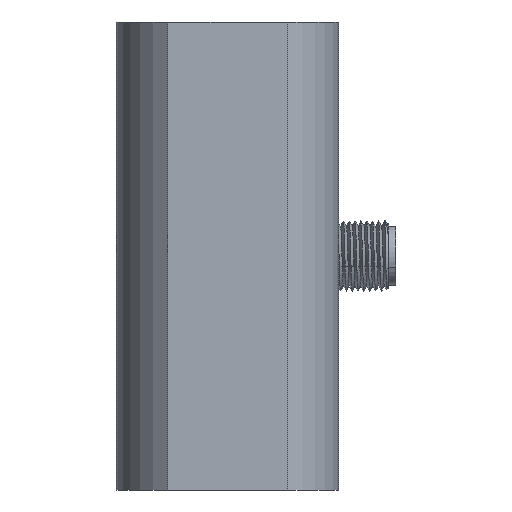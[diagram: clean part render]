
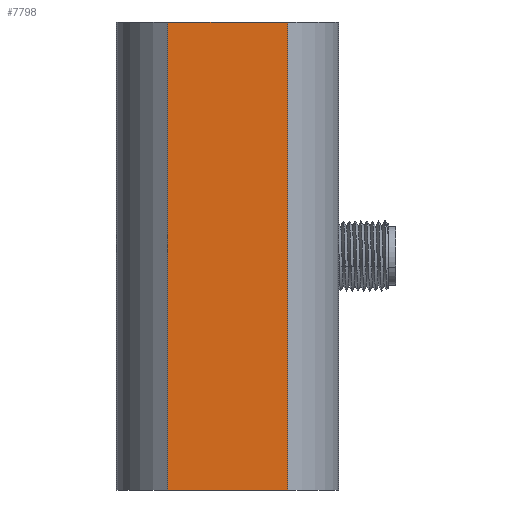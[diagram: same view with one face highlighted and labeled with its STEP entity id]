
A CAD part, front view. The second image highlights one B-rep face of the part: STEP entity #7798.
In plain terms, the highlighted planar face has unit normal (0, -1, 0).
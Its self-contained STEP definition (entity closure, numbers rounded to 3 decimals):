
#5753=FACE_OUTER_BOUND('',#9813,.T.);
#7798=ADVANCED_FACE('',(#5753),#8216,.F.);
#8216=PLANE('',#22635);
#9813=EDGE_LOOP('',(#15022,#15023,#15024,#15025));
#15022=ORIENTED_EDGE('',*,*,#19002,.F.);
#15023=ORIENTED_EDGE('',*,*,#18974,.T.);
#15024=ORIENTED_EDGE('',*,*,#19003,.F.);
#15025=ORIENTED_EDGE('',*,*,#18988,.F.);
#16652=VERTEX_POINT('',#42742);
#16653=VERTEX_POINT('',#42743);
#16665=VERTEX_POINT('',#43290);
#16667=VERTEX_POINT('',#43293);
#18974=EDGE_CURVE('',#16652,#16653,#20031,.T.);
#18988=EDGE_CURVE('',#16665,#16667,#20034,.T.);
#19002=EDGE_CURVE('',#16652,#16665,#20039,.T.);
#19003=EDGE_CURVE('',#16667,#16653,#20040,.T.);
#20031=LINE('',#42741,#21203);
#20034=LINE('',#43292,#21206);
#20039=LINE('',#43331,#21211);
#20040=LINE('',#43332,#21212);
#21203=VECTOR('',#26615,1.);
#21206=VECTOR('',#26636,1.);
#21211=VECTOR('',#26657,1.);
#21212=VECTOR('',#26658,1.);
#22635=AXIS2_PLACEMENT_3D('',#43333,#26659,#26660);
#26615=DIRECTION('',(-1.,0.,0.));
#26636=DIRECTION('',(-1.,0.,0.));
#26657=DIRECTION('',(0.,0.,-1.));
#26658=DIRECTION('',(0.,0.,1.));
#26659=DIRECTION('',(0.,1.,0.));
#26660=DIRECTION('',(-1.,0.,0.));
#42741=CARTESIAN_POINT('',(-0.016,-15.,183.));
#42742=CARTESIAN_POINT('',(10.231,-15.,183.));
#42743=CARTESIAN_POINT('',(-10.263,-15.,183.));
#43290=CARTESIAN_POINT('',(10.231,-15.,103.));
#43292=CARTESIAN_POINT('',(-0.016,-15.,103.));
#43293=CARTESIAN_POINT('',(-10.263,-15.,103.));
#43331=CARTESIAN_POINT('',(10.231,-15.,99.));
#43332=CARTESIAN_POINT('',(-10.263,-15.,99.));
#43333=CARTESIAN_POINT('',(-0.016,-15.,143.));
